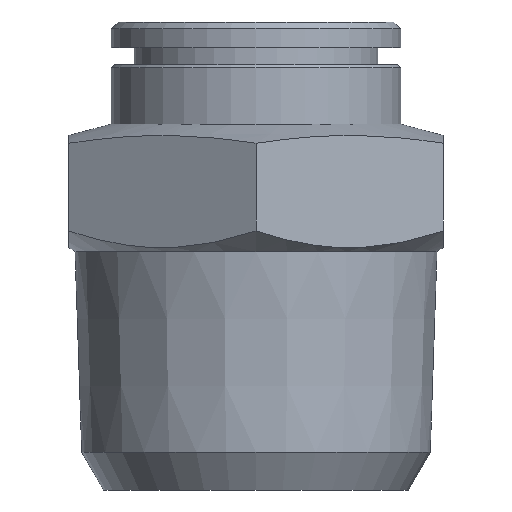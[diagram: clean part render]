
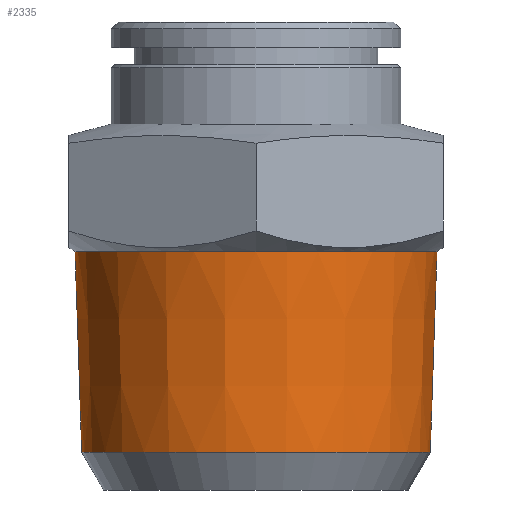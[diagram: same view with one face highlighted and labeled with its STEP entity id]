
A CAD part, left-side view. The second image highlights one B-rep face of the part: STEP entity #2335.
In plain terms, the highlighted conical face has half-angle 1.918 degrees and reference radius 10.634 mm.
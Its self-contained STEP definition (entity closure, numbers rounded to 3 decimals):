
#1140=CONICAL_SURFACE('',#2226,10.634,1.918);
#1172=ORIENTED_EDGE('',*,*,#1465,.F.);
#1173=ORIENTED_EDGE('',*,*,#1466,.F.);
#1355=CIRCLE('',#2227,10.239);
#1356=CIRCLE('',#2228,10.634);
#1392=VERTEX_POINT('',#2015);
#1393=VERTEX_POINT('',#2017);
#1465=EDGE_CURVE('',#1392,#1392,#1355,.T.);
#1466=EDGE_CURVE('',#1393,#1393,#1356,.T.);
#1573=EDGE_LOOP('',(#1172));
#1574=EDGE_LOOP('',(#1173));
#1651=FACE_BOUND('',#1573,.T.);
#1652=FACE_BOUND('',#1574,.T.);
#1759=DIRECTION('',(0.,1.,0.));
#1760=DIRECTION('',(0.,0.,1.));
#1761=DIRECTION('',(0.,-1.,0.));
#1762=DIRECTION('',(-10.239,0.,0.));
#1763=DIRECTION('',(0.,1.,0.));
#1764=DIRECTION('',(10.634,0.,0.));
#2014=CARTESIAN_POINT('',(0.,14.,0.));
#2015=CARTESIAN_POINT('',(-10.239,2.209,0.));
#2016=CARTESIAN_POINT('',(0.,2.209,0.));
#2017=CARTESIAN_POINT('',(10.634,14.,0.));
#2018=CARTESIAN_POINT('',(0.,14.,0.));
#2226=AXIS2_PLACEMENT_3D('',#2014,#1759,#1760);
#2227=AXIS2_PLACEMENT_3D('',#2016,#1761,#1762);
#2228=AXIS2_PLACEMENT_3D('',#2018,#1763,#1764);
#2335=ADVANCED_FACE('',(#1651,#1652),#1140,.T.);
